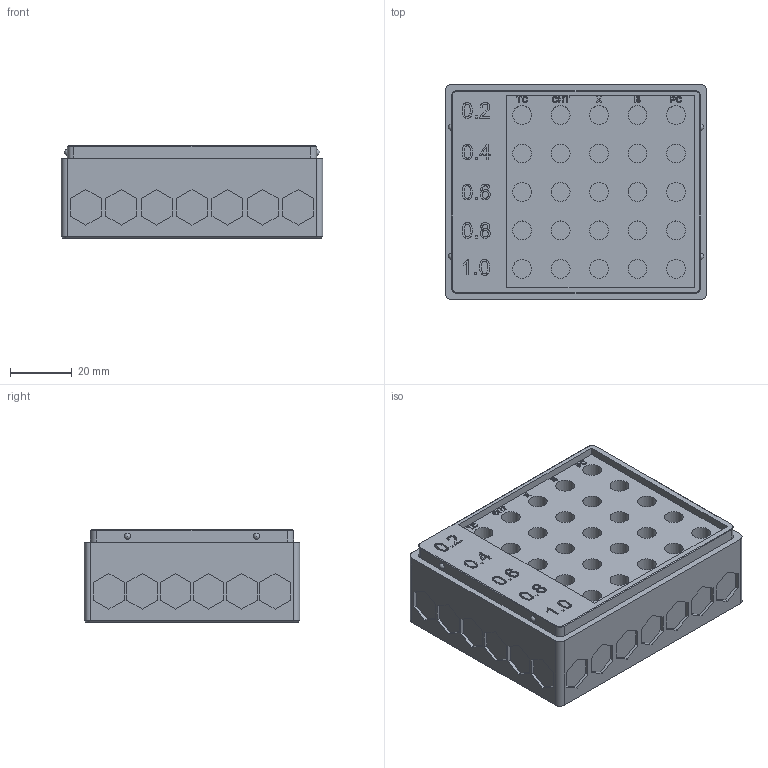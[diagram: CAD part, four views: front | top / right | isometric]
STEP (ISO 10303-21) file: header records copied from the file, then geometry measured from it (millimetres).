
FILE_DESCRIPTION(/* description */ (''),/* implementation_level */ '2;1');
FILE_NAME(/* name */ 'VOLCANUM-NOZZLEBOX - FIXED.step',/* time_stamp */ '2022-12-26T05:19:23+10:00',/* author */ (''),/* organization */ (''),/* preprocessor_version */ 'ST-DEVELOPER v19.2',/* originating_system */ 'Autodesk Translation Framework v11.17.0.187',/* authorisation */ '');
FILE_SCHEMA (('AUTOMOTIVE_DESIGN { 1 0 10303 214 3 1 1 }'));
Products named in the file (1): VOLCANUM-NOZZLEBOX
Bounding box: 85 x 70 x 30 mm (x, y, z)
Volume: 147359.9 mm3; surface area: 34950.4 mm2
Topology: 1 solids, 1 shells, 1719 faces, 4751 edges, 3162 vertices
Faces by surface type: bspline 1120, plane 554, cylinder 33, cone 8, sphere 4
Full cylindrical faces by diameter (mm): 6.1 x25
Entity records: 59155 total; most frequent: CARTESIAN_POINT 25427, ORIENTED_EDGE 9494, EDGE_CURVE 4747, DIRECTION 3789, VERTEX_POINT 3162, LINE 2425, VECTOR 2425, EDGE_LOOP 1851
